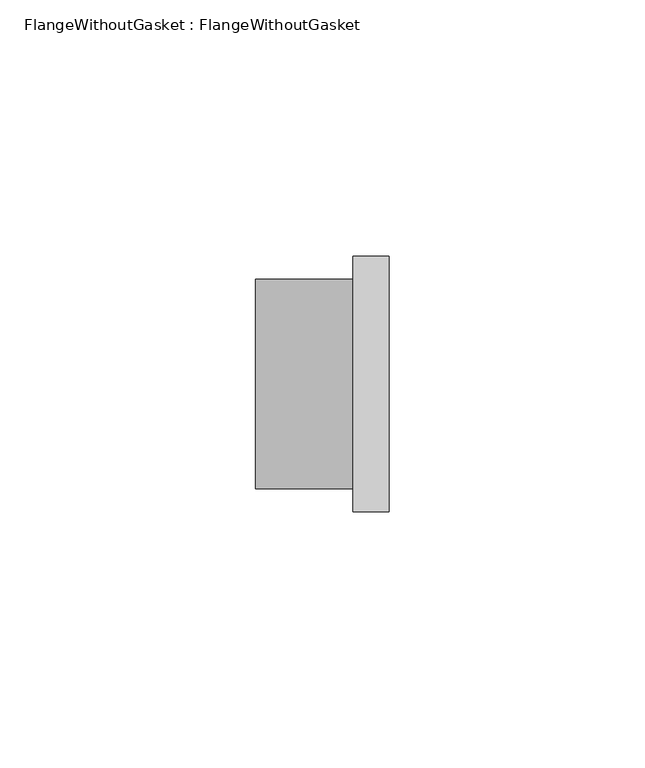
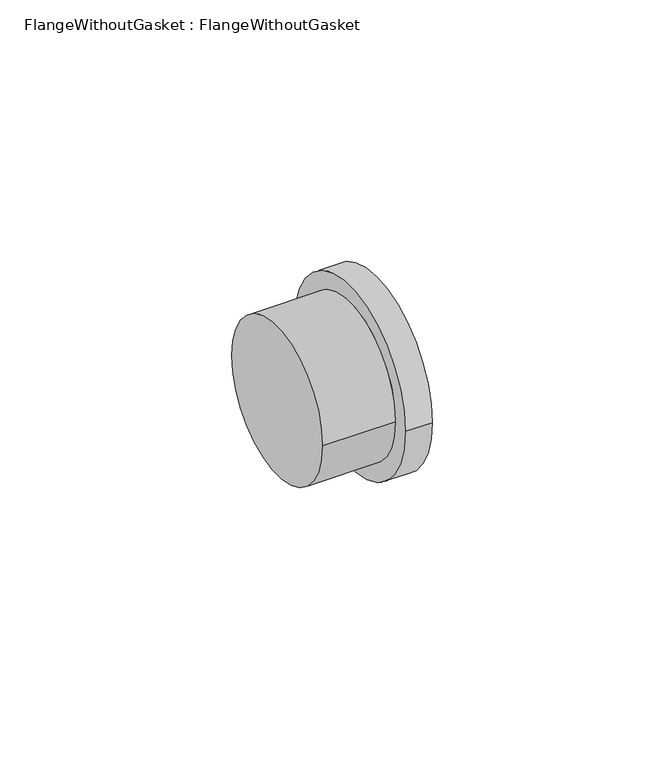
"""IFC4 building model written with IfcOpenShell, lengths in millimetres: pipe fitting geometry, FlangeWithoutGasket : FlangeWithoutGasket."""

from ifc_helpers import new_model, si_unit, frame, origin, place, context, project, spatial, circle_curve, source, transform, mapped, element, save
from ifc_brep_helpers import plane_surface, cylinder_surface, advanced_brep


def flangewithoutgasket_flangewithoutgasket_258abd56(model_context):
    return source(origin(), model_context, "Body", "AdvancedBrep", [
        advanced_brep(
        [(13.0, 25.0, 0.0), (13.0, -25.0, 0.0), (6.0, 25.0, 0.0), (6.0, -25.0, 0.0), (6.0, 20.5, 0.0), (6.0, -20.5, 0.0), (-13.0, -20.5, 0.0), (-13.0, 20.5, 0.0)],
        [
            (0, 1, circle_curve(frame((13.0, 0.0, 0.0), z_axis=(1.0, 0.0, 0.0), x_axis=(0.0, -1.0, 0.0)), 25.0)),
            (1, 0, circle_curve(frame((13.0, 0.0, 0.0), z_axis=(1.0, 0.0, 0.0), x_axis=(0.0, -1.0, 0.0)), 25.0)),
            (2, 3, circle_curve(frame((6.0, 0.0, 0.0), z_axis=(-1.0, 0.0, 0.0), x_axis=(0.0, -1.0, 0.0)), 25.0)),
            (3, 2, circle_curve(frame((6.0, 0.0, 0.0), z_axis=(-1.0, 0.0, 0.0), x_axis=(0.0, -1.0, 0.0)), 25.0)),
            (4, 5, circle_curve(frame((6.0, 0.0, 0.0), z_axis=(1.0, 0.0, 0.0), x_axis=(0.0, 1.0, 0.0)), 20.5)),
            (5, 4, circle_curve(frame((6.0, 0.0, 0.0), z_axis=(1.0, 0.0, 0.0), x_axis=(0.0, 1.0, 0.0)), 20.5)),
            (0, 2),
            (3, 1),
            (6, 7, circle_curve(frame((-13.0, 0.0, 0.0), z_axis=(-1.0, 0.0, 0.0), x_axis=(0.0, 1.0, 0.0)), 20.5)),
            (7, 6, circle_curve(frame((-13.0, 0.0, 0.0), z_axis=(-1.0, 0.0, 0.0), x_axis=(0.0, 1.0, 0.0)), 20.5)),
            (6, 5),
            (4, 7),
        ],
        [
            plane_surface(frame((13.0, 0.0, 0.0), z_axis=(1.0, 0.0, 0.0), x_axis=(0.0, 0.0, 1.0))),
            plane_surface(frame((6.0, 0.0, 0.0), z_axis=(-1.0, 0.0, 0.0), x_axis=(0.0, 0.0, 1.0))),
            cylinder_surface(frame((13.0, 0.0, 0.0), z_axis=(1.0, 0.0, 0.0), x_axis=(0.0, -1.0, 0.0)), 25.0),
            plane_surface(frame((-13.0, 0.0, 0.0), z_axis=(-1.0, 0.0, 0.0), x_axis=(0.0, 0.0, 1.0))),
            cylinder_surface(frame((-13.0, 0.0, 0.0), z_axis=(-1.0, 0.0, 0.0), x_axis=(0.0, 1.0, 0.0)), 20.5),
        ],
        [
            (0, [[1, 2]]),
            (1, [[3, 4], [5, 6]]),
            (2, [[-1, 7, -4, 8]]),
            (2, [[-2, -8, -3, -7]]),
            (3, [[9, 10]]),
            (4, [[-9, 11, -5, 12]]),
            (4, [[-10, -12, -6, -11]]),
        ],
    ),
    ])


if __name__ == "__main__":
    model = new_model("IFC4")
    model_context = context("Model", 3, world=origin())
    ifc_project = project(units=[si_unit("LENGTHUNIT", "METRE", prefix="MILLI")], contexts=[model_context])
    site = spatial("IfcSite", under=ifc_project)
    building = spatial("IfcBuilding", under=site)
    placement = place(None, origin())
    flangewithoutgasket_flangewithoutgasket_shape = flangewithoutgasket_flangewithoutgasket_258abd56(model_context)
    element("IfcPipeFitting", 1, ObjectType="FlangeWithoutGasket : FlangeWithoutGasket", at=placement, inside=building, context=model_context, shape_type="MappedRepresentation", body=[
        mapped(flangewithoutgasket_flangewithoutgasket_shape, transform((0.0, 0.0, 0.0), x_axis=(1.0, 0.0, 0.0), y_axis=(0.0, 1.0, 0.0), z_axis=(0.0, 0.0, 1.0))),
    ])
    save(model, "model.ifc")
